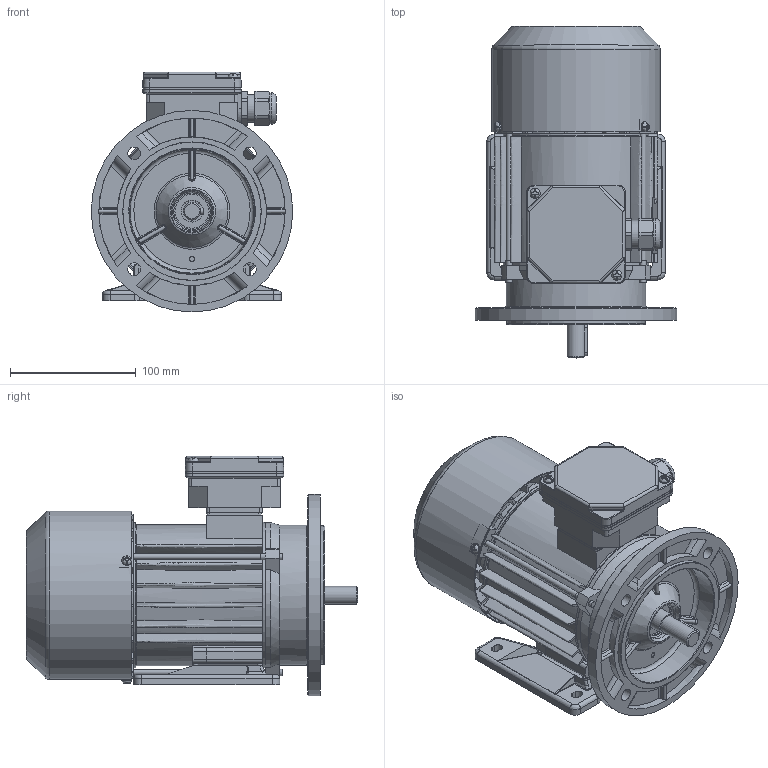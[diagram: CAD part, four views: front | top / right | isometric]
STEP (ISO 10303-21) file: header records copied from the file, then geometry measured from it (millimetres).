
FILE_DESCRIPTION( ( 'Unknown' ), '1' );
FILE_NAME( 'G:/Poczta Tk-1/STP/w.m.71/2SIE71/2SIEL71-.C.stp', 'Unknown', ( 'K. Szlosek' ), ( 'BESEL S.A.' ), 'PSStep 17.0.49', 'Unknown', ' ' );
FILE_SCHEMA( ( 'AUTOMOTIVE_DESIGN { 1 0 10303 214 1 1 1 1 }' ) );
Length unit declared in the file: millimetre
Products named in the file (30): skrznka zaciskowa trójfazowa ; K4-2820 Uszczelka nr 2 Sh71,80; Dławnica M20x1,5; K2-0859 Podstawa skrzynki 6-cio zaciskowej; K2-0860 Pokrywka skrzynki zaciskowej; Assem1; K3-2975 Osłona przewietrznika Sh71-.B,C; K4-2320 Uszczelka nr 1 Sh71,80; K1-1194 Kadłub z zamkami Sh71-.C; K3-6469 Tarcza łożyskowa P S(E,M)h71-B,C; Wpust A5x5x25; Wkręt samogwintujący M4x8; Nitokołek A 2x6; k3-4489 Wał SKh71 x-2C1; Wkręt samogwintujący M4x16; K3-3984 Przewietrznik Sh71; K1-1244 Tarcza kołnierzowa B5 w.m. 71; Łożysko 6203; Śruba ściągająca E_M5x130; Tabliczka znamionowa 32x44; K1-0448 Łapa Sh71-.. 
Assembly tree (45 placements, depth 3):
  Assem1
    K3-2975 Osłona przewietrznika Sh71-.B,C
    K4-2320 Uszczelka nr 1 Sh71,80
    K1-1194 Kadłub z zamkami Sh71-.C
    K3-6469 Tarcza łożyskowa P S(E,M)h71-B,C
    Wpust A5x5x25
    Wkręt samogwintujący M4x8  x3
    Nitokołek A 2x6  x2
    k3-4489 Wał SKh71 x-2C1
    Wkręt samogwintujący M4x16  x2
    K3-3984 Przewietrznik Sh71
    K1-1244 Tarcza kołnierzowa B5 w.m. 71
    Łożysko 6203  x2
    Łożysko 6203  x2
    Łożysko 6203  x2
    Łożysko 6203  x2
    Łożysko 6203  x2
    Łożysko 6203  x2
    Łożysko 6203  x2
    Łożysko 6203  x2
    Łożysko 6203  x2
    Łożysko 6203  x2
    Śruba ściągająca E_M5x130  x3
    Tabliczka znamionowa 32x44
    K1-0448 Łapa Sh71-.. 
    skrznka zaciskowa trójfazowa 
      K4-2820 Uszczelka nr 2 Sh71,80
      Dławnica M20x1,5
      K2-0859 Podstawa skrzynki 6-cio zaciskowej
      K2-0860 Pokrywka skrzynki zaciskowej
Bounding box: 160 x 263.5 x 190.5 mm (x, y, z)
Volume: 792934.4 mm3; surface area: 488293.2 mm2
Topology: 44 solids, 60 shells, 2539 faces, 6846 edges, 4365 vertices
Faces by surface type: plane 1030, cylinder 746, bspline 389, torus 175, cone 157, sphere 42
Full cylindrical faces by diameter (mm): 2 x2, 2.4 x2, 3.7 x7, 3.8 x4, 4 x6, 4.2 x3, 4.5 x1, 4.6 x3, 4.8 x4, 5 x7, 5.5 x3, 5.8 x4, 7 x1, 8 x9, 10 x4, 14 x1, 15.9 x1, 16.1 x1, 16.5 x1, 17 x4, 17.4 x2, 18.376 x1, 18.38 x1, 20 x1, 22 x2, 22.3 x1, 22.5 x1, 23.1 x1, 24 x1, 24.498 x4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
Entity records: 148843 total; most frequent: CARTESIAN_POINT 73059, ORIENTED_EDGE 12196, DIRECTION 10927, EDGE_CURVE 6098, AXIS2_PLACEMENT_3D 4146, VERTEX_POINT 4034, EDGE_LOOP 2801, LINE 2635
